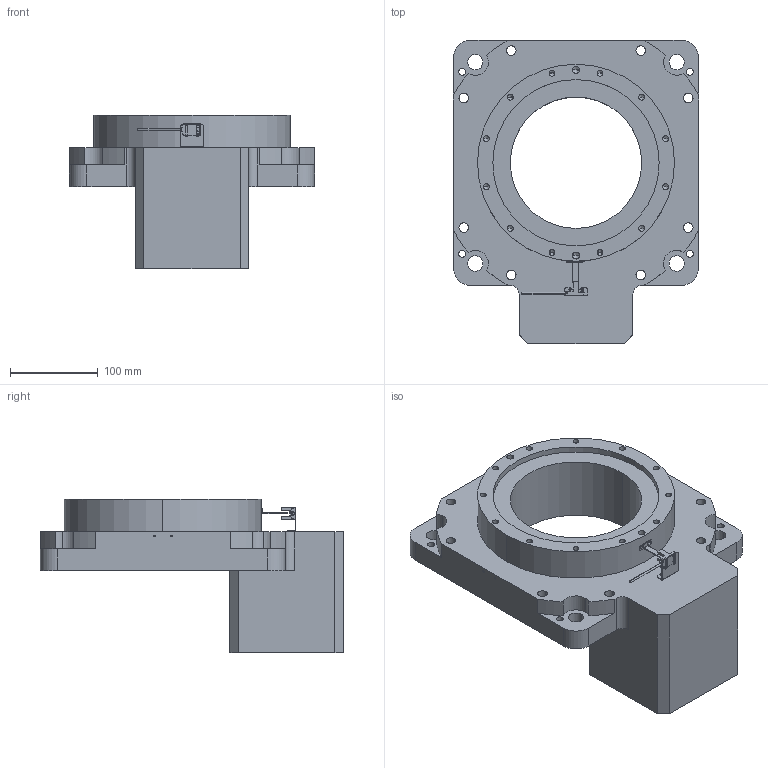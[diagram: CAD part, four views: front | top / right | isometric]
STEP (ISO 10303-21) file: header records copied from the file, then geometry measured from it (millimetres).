
FILE_DESCRIPTION (( 'STEP AP203' ), '1' );
FILE_NAME ('RTN280-10K-24-95-115-M6.STEP', '2024-05-21T10:32:43', ( '' ), ( '' ), 'SwSTEP 2.0', 'SolidWorks 2023', '' );
FILE_SCHEMA (( 'CONFIG_CONTROL_DESIGN' ));
Length unit declared in the file: millimetre
Products named in the file (1): RTN280-10K-24-95-115-M6
Bounding box: 280 x 346.5 x 175.5 mm (x, y, z)
Volume: 5039886.8 mm3; surface area: 338623.5 mm2
Topology: 4 solids, 6 shells, 316 faces, 839 edges, 516 vertices
Faces by surface type: cylinder 154, plane 110, cone 52
Entity records: 9640 total; most frequent: DIRECTION 1727, CARTESIAN_POINT 1626, ORIENTED_EDGE 1574, EDGE_CURVE 787, AXIS2_PLACEMENT_3D 625, VERTEX_POINT 516, VECTOR 477, LINE 477
